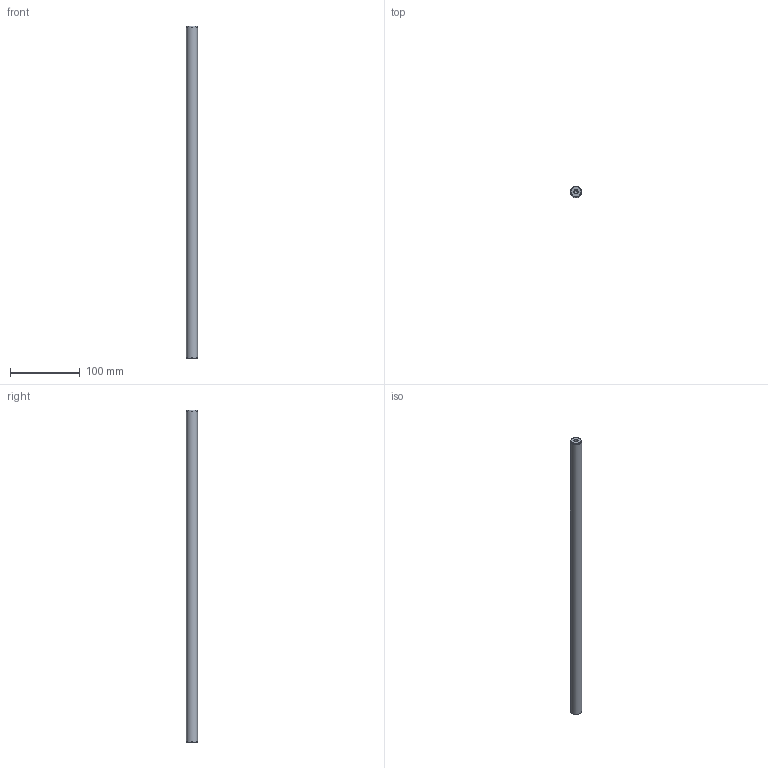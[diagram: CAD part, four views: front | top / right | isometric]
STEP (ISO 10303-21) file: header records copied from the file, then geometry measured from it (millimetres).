
FILE_DESCRIPTION( ( 'STEP AP214' ), '1' );
FILE_NAME( 'U:/Etudes/Top Solid/BIBLIO 3D AVM/STEP/PNEUMATIQUE/GUIDAGES/Accessoires/Colonnes/Ø16x477.step', '2005-05-04T12:47:39', ( ' ' ), ( ' ' ), 'XStep 1.0', ' ', ' ' );
FILE_SCHEMA( ( 'automotive_design' ) );
Length unit declared in the file: metre
Products named in the file (1): 1
Bounding box: 16 x 16 x 477 mm (x, y, z)
Volume: 95250.1 mm3; surface area: 24808.7 mm2
Topology: 1 solids, 1 shells, 13 faces, 27 edges, 16 vertices
Faces by surface type: cone 6, cylinder 5, plane 2
Full cylindrical faces by diameter (mm): 4.918 x4, 16 x1
Entity records: 382 total; most frequent: DIRECTION 52, CARTESIAN_POINT 40, AXIS2_PLACEMENT_3D 26, EDGE_LOOP 24, ORIENTED_EDGE 24, FACE_OUTER_BOUND 18, VERTEX_POINT 14, STYLED_ITEM 13
